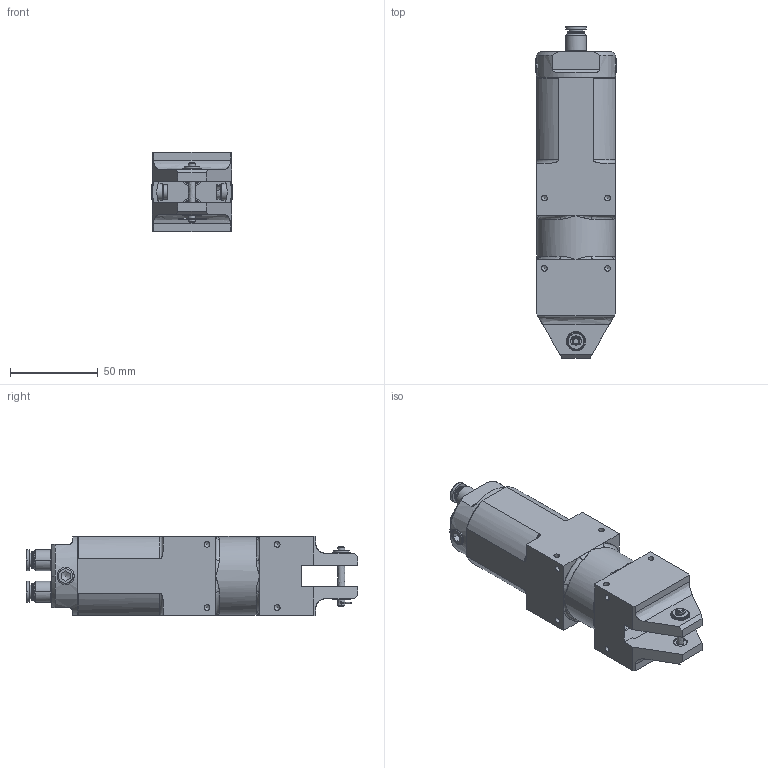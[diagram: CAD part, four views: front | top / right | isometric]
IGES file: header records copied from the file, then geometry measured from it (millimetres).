
Global section: file name: \\Kikaku_server01\kikaku\; native system: Rhinoceros ( Feb 22 2008 ); preprocessor: Trout Lake IGES 012 Feb 22 2008; date: 081001.005426; units: millimetre
Bounding box: 45.9 x 189.05 x 45 mm (x, y, z)
Surface area: 39159.4 mm2 (no closed solid volume)
Topology: 0 solids, 0 shells, 342 faces, 1995 edges, 1934 vertices
Faces by surface type: bspline 342
